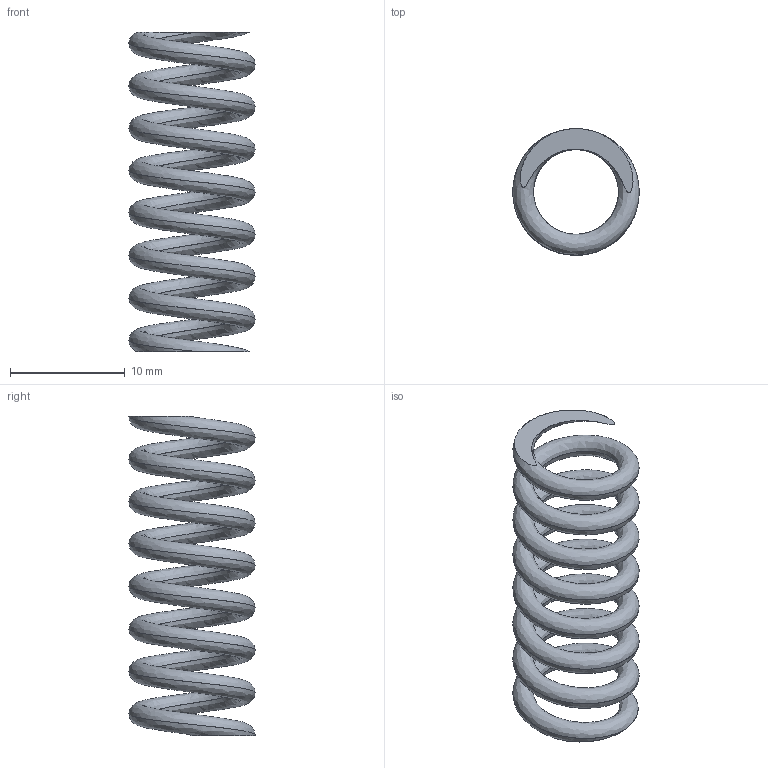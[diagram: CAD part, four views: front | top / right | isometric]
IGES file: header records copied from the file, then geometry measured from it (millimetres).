
Start section: SolidWorks IGES FILE using analytic representation for surfaces
Global section: file name: C:\Documents and Settings\lecoutey\Bureau\GP 29\52.230.10.IGS; native system: SolidWorks 2004 by SolidWorks Corporation; preprocessor: Version 5.3; author: lecoutey; date: 050329.141718; units: millimetre
Bounding box: 11 x 11 x 27.8 mm (x, y, z)
Surface area: 1279.4 mm2 (no closed solid volume)
Topology: 0 solids, 0 shells, 5 faces, 182 edges, 182 vertices
Faces by surface type: bspline 5
